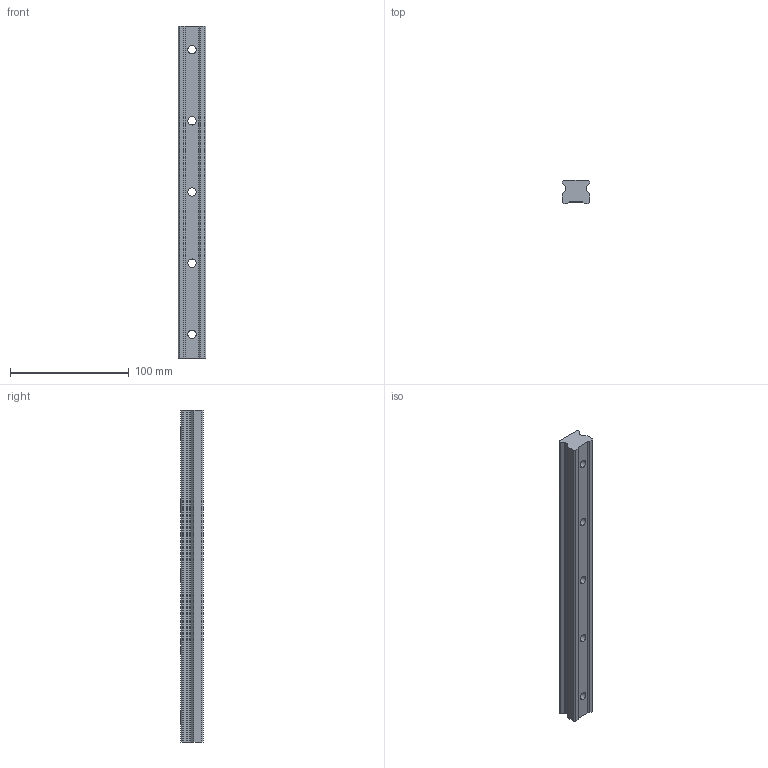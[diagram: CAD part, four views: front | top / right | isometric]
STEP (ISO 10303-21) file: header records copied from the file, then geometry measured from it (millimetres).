
FILE_DESCRIPTION (( 'STEP AP203' ), '1' );
FILE_NAME ('L1016.BL25-0280.step', '2019-06-12T12:04:17', ( '' ), ( '' ), 'SwSTEP 2.0', 'SolidWorks 2017', '' );
FILE_SCHEMA (( 'CONFIG_CONTROL_DESIGN' ));
Length unit declared in the file: millimetre
Products named in the file (1): L1016.BL25-0280
Bounding box: 23 x 19.2 x 280 mm (x, y, z)
Volume: 102821.7 mm3; surface area: 27326.3 mm2
Topology: 1 solids, 1 shells, 51 faces, 132 edges, 88 vertices
Faces by surface type: plane 27, cylinder 24
Entity records: 1671 total; most frequent: DIRECTION 284, CARTESIAN_POINT 272, ORIENTED_EDGE 264, EDGE_CURVE 132, AXIS2_PLACEMENT_3D 100, VERTEX_POINT 88, LINE 84, VECTOR 84
